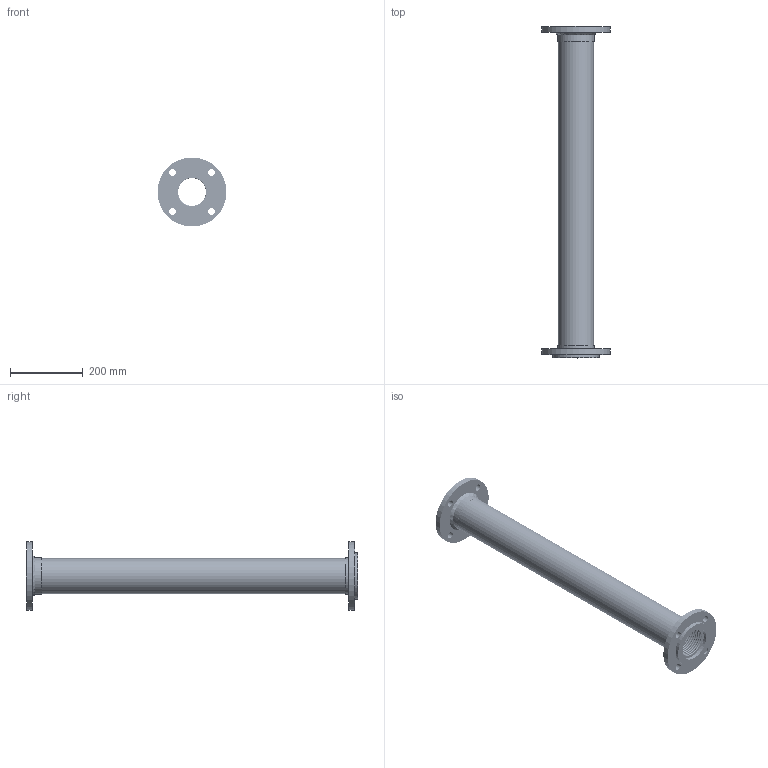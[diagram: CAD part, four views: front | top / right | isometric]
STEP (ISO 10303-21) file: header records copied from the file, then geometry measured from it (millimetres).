
FILE_DESCRIPTION((''),'2;1');
FILE_NAME('C:\REVIT SHARED FILES\STP\FFL3x36ASA150.stp','2013-06-14T18:57:23',('rramoutar'),(''),'Autodesk Inventor 2012','Autodesk Inventor 2012','');
FILE_SCHEMA(('AUTOMOTIVE_DESIGN { 1 0 10303 214 1 1 1 1 }'));
Length unit declared in the file: inch
Products named in the file (8): FFL 3.0 x 36 PER A-30308-3; FFL 3.0 x 36 PER A-30308-3_Welds; A-30302-2 FIXED FLANGE 3 inch 150 #; A-30303-1 FLOATING FLANGE 3 inch 150 #; A-30840-1 VFL 3.0 inch WELDED WASHER; A-29781-7 VGN 3 inch BRAID COLLAR; FFL 3.0x36 BRAID; FFL 3.0x36 STAINLESS HOSE
Assembly tree (8 placements, depth 2):
  FFL 3.0 x 36 PER A-30308-3
    FFL 3.0 x 36 PER A-30308-3_Welds
    A-30302-2 FIXED FLANGE 3 inch 150 #
    A-30303-1 FLOATING FLANGE 3 inch 150 #
    A-30840-1 VFL 3.0 inch WELDED WASHER
    A-29781-7 VGN 3 inch BRAID COLLAR  x2
    FFL 3.0x36 BRAID
    FFL 3.0x36 STAINLESS HOSE
Bounding box: 189.78 x 914.4 x 189.78 mm (x, y, z)
Volume: 1172580.6 mm3; surface area: 2453181 mm2
Topology: 8 solids, 8 shells, 1114 faces, 1694 edges, 1132 vertices
Faces by surface type: plane 552, torus 538, cylinder 22, bspline 1, cone 1
Full cylindrical faces by diameter (mm): 19.05 x8, 92.075 x2, 97.028 x1, 97.841 x3, 100.222 x3, 106.363 x1, 127 x2, 190.5 x2
Entity records: 22807 total; most frequent: DIRECTION 4482, CARTESIAN_POINT 3553, ORIENTED_EDGE 2242, AXIS2_PLACEMENT_3D 2241, EDGE_LOOP 2235, FACE_BOUND 1125, EDGE_CURVE 1121, VERTEX_POINT 1120
